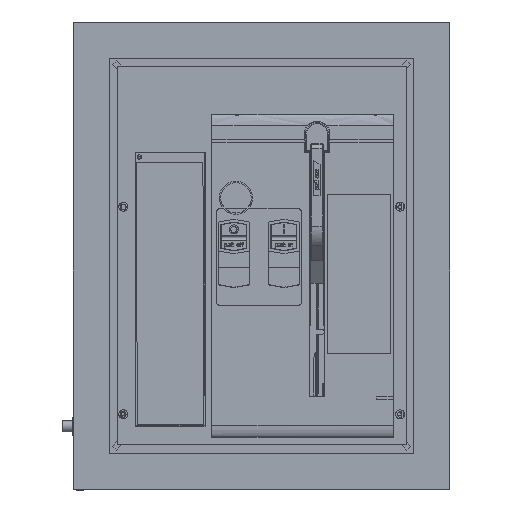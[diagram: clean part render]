
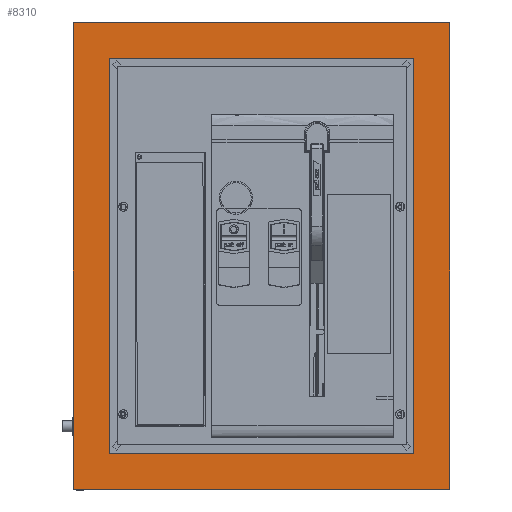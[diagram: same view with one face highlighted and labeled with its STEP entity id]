
A CAD part, top view. The second image highlights one B-rep face of the part: STEP entity #8310.
In plain terms, the highlighted planar face has unit normal (0, 0, 1).
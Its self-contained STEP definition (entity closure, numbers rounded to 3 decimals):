
#869 = ORIENTED_EDGE ( 'NONE', *, *, #62154, .F. ) ;
#1054 = LINE ( 'NONE', #36782, #49618 ) ;
#2755 = VERTEX_POINT ( 'NONE', #79060 ) ;
#3376 = LINE ( 'NONE', #112231, #20637 ) ;
#3984 = AXIS2_PLACEMENT_3D ( 'NONE', #32346, #5556, #113252 ) ;
#4644 = LINE ( 'NONE', #11805, #84988 ) ;
#5556 = DIRECTION ( 'NONE',  ( 0., 0., 1. ) ) ;
#6054 = LINE ( 'NONE', #96494, #44463 ) ;
#6079 = CARTESIAN_POINT ( 'NONE',  ( -1512.854, 93.52, 154.457 ) ) ;
#7276 = CIRCLE ( 'NONE', #33867, 2. ) ;
#8310 = ADVANCED_FACE ( 'NONE', ( #63842, #109059 ), #16883, .T. ) ;
#9554 = VECTOR ( 'NONE', #77139, 1000. ) ;
#11158 = AXIS2_PLACEMENT_3D ( 'NONE', #90972, #63586, #99879 ) ;
#11797 = LINE ( 'NONE', #112320, #20786 ) ;
#11805 = CARTESIAN_POINT ( 'NONE',  ( -1488.854, 67.02, 154.457 ) ) ;
#13304 = AXIS2_PLACEMENT_3D ( 'NONE', #57791, #94092, #15335 ) ;
#15241 = CIRCLE ( 'NONE', #13304, 2. ) ;
#15335 = DIRECTION ( 'NONE',  ( 1., 0., 0. ) ) ;
#16562 = ORIENTED_EDGE ( 'NONE', *, *, #77008, .T. ) ;
#16814 = CIRCLE ( 'NONE', #11158, 2. ) ;
#16883 = PLANE ( 'NONE',  #115647 ) ;
#20637 = VECTOR ( 'NONE', #30746, 1000. ) ;
#20773 = EDGE_CURVE ( 'NONE', #76090, #108438, #3376, .T. ) ;
#20786 = VECTOR ( 'NONE', #112904, 1000. ) ;
#21316 = DIRECTION ( 'NONE',  ( 0., -1., 0. ) ) ;
#21849 = LINE ( 'NONE', #50365, #9554 ) ;
#22427 = ORIENTED_EDGE ( 'NONE', *, *, #104769, .F. ) ;
#22502 = CARTESIAN_POINT ( 'NONE',  ( -1268.854, 67.02, 154.457 ) ) ;
#22940 = CARTESIAN_POINT ( 'NONE',  ( -1242.854, 91.52, 154.457 ) ) ;
#26972 = EDGE_LOOP ( 'NONE', ( #66635, #22427, #44577, #40897 ) ) ;
#27212 = VERTEX_POINT ( 'NONE', #110724 ) ;
#29733 = VERTEX_POINT ( 'NONE', #81162 ) ;
#30531 = CARTESIAN_POINT ( 'NONE',  ( -1242.854, -242.48, 154.457 ) ) ;
#30746 = DIRECTION ( 'NONE',  ( -1., 0., 0. ) ) ;
#32160 = ORIENTED_EDGE ( 'NONE', *, *, #110866, .F. ) ;
#32346 = CARTESIAN_POINT ( 'NONE',  ( -1244.854, -242.48, 154.457 ) ) ;
#33421 = DIRECTION ( 'NONE',  ( 0., 1., 0. ) ) ;
#33867 = AXIS2_PLACEMENT_3D ( 'NONE', #34049, #68562, #69723 ) ;
#34049 = CARTESIAN_POINT ( 'NONE',  ( -1512.854, 91.52, 154.457 ) ) ;
#35202 = VERTEX_POINT ( 'NONE', #30531 ) ;
#36419 = EDGE_CURVE ( 'NONE', #38106, #92925, #7276, .T. ) ;
#36782 = CARTESIAN_POINT ( 'NONE',  ( -1244.854, -244.48, 154.457 ) ) ;
#37467 = EDGE_CURVE ( 'NONE', #27212, #71560, #11797, .T. ) ;
#38106 = VERTEX_POINT ( 'NONE', #6079 ) ;
#40897 = ORIENTED_EDGE ( 'NONE', *, *, #83391, .F. ) ;
#41101 = EDGE_CURVE ( 'NONE', #46340, #35202, #71922, .T. ) ;
#44449 = ORIENTED_EDGE ( 'NONE', *, *, #97840, .T. ) ;
#44463 = VECTOR ( 'NONE', #33421, 1000. ) ;
#44577 = ORIENTED_EDGE ( 'NONE', *, *, #37467, .F. ) ;
#45122 = VECTOR ( 'NONE', #53594, 1000. ) ;
#46340 = VERTEX_POINT ( 'NONE', #22940 ) ;
#49618 = VECTOR ( 'NONE', #102769, 1000. ) ;
#50365 = CARTESIAN_POINT ( 'NONE',  ( -1268.854, -217.98, 154.457 ) ) ;
#53594 = DIRECTION ( 'NONE',  ( 1., 0., 0. ) ) ;
#57791 = CARTESIAN_POINT ( 'NONE',  ( -1244.854, 91.52, 154.457 ) ) ;
#58538 = VECTOR ( 'NONE', #81431, 1000. ) ;
#62039 = ORIENTED_EDGE ( 'NONE', *, *, #97080, .T. ) ;
#62154 = EDGE_CURVE ( 'NONE', #107849, #2755, #1054, .T. ) ;
#63259 = DIRECTION ( 'NONE',  ( -1., 0., 0. ) ) ;
#63586 = DIRECTION ( 'NONE',  ( 0., 0., 1. ) ) ;
#63842 = FACE_BOUND ( 'NONE', #26972, .T. ) ;
#64743 = CIRCLE ( 'NONE', #3984, 2. ) ;
#66635 = ORIENTED_EDGE ( 'NONE', *, *, #20773, .F. ) ;
#68562 = DIRECTION ( 'NONE',  ( 0., 0., 1. ) ) ;
#68900 = ORIENTED_EDGE ( 'NONE', *, *, #73821, .F. ) ;
#69723 = DIRECTION ( 'NONE',  ( 0., 1., 0. ) ) ;
#71443 = LINE ( 'NONE', #98827, #45122 ) ;
#71560 = VERTEX_POINT ( 'NONE', #88272 ) ;
#71922 = LINE ( 'NONE', #80262, #58538 ) ;
#72620 = CARTESIAN_POINT ( 'NONE',  ( -1514.854, 91.52, 154.457 ) ) ;
#73821 = EDGE_CURVE ( 'NONE', #38106, #29733, #71443, .T. ) ;
#74429 = ORIENTED_EDGE ( 'NONE', *, *, #36419, .T. ) ;
#76090 = VERTEX_POINT ( 'NONE', #22502 ) ;
#77008 = EDGE_CURVE ( 'NONE', #92597, #2755, #16814, .T. ) ;
#77139 = DIRECTION ( 'NONE',  ( 0., 1., 0. ) ) ;
#79060 = CARTESIAN_POINT ( 'NONE',  ( -1512.854, -244.48, 154.457 ) ) ;
#80262 = CARTESIAN_POINT ( 'NONE',  ( -1242.854, 91.52, 154.457 ) ) ;
#80544 = DIRECTION ( 'NONE',  ( 0., 0., 1. ) ) ;
#81162 = CARTESIAN_POINT ( 'NONE',  ( -1244.854, 93.52, 154.457 ) ) ;
#81431 = DIRECTION ( 'NONE',  ( 0., -1., 0. ) ) ;
#83391 = EDGE_CURVE ( 'NONE', #108438, #27212, #4644, .T. ) ;
#84988 = VECTOR ( 'NONE', #21316, 1000. ) ;
#88272 = CARTESIAN_POINT ( 'NONE',  ( -1268.854, -217.98, 154.457 ) ) ;
#90787 = CARTESIAN_POINT ( 'NONE',  ( -1514.854, -242.48, 154.457 ) ) ;
#90972 = CARTESIAN_POINT ( 'NONE',  ( -1512.854, -242.48, 154.457 ) ) ;
#91232 = CARTESIAN_POINT ( 'NONE',  ( -1378.854, -75.48, 154.457 ) ) ;
#92597 = VERTEX_POINT ( 'NONE', #90787 ) ;
#92894 = CARTESIAN_POINT ( 'NONE',  ( -1244.854, -244.48, 154.457 ) ) ;
#92925 = VERTEX_POINT ( 'NONE', #72620 ) ;
#94092 = DIRECTION ( 'NONE',  ( 0., 0., 1. ) ) ;
#94330 = EDGE_LOOP ( 'NONE', ( #32160, #16562, #869, #44449, #106236, #62039, #68900, #74429 ) ) ;
#96494 = CARTESIAN_POINT ( 'NONE',  ( -1514.854, -242.48, 154.457 ) ) ;
#97080 = EDGE_CURVE ( 'NONE', #46340, #29733, #15241, .T. ) ;
#97840 = EDGE_CURVE ( 'NONE', #107849, #35202, #64743, .T. ) ;
#98827 = CARTESIAN_POINT ( 'NONE',  ( -1512.854, 93.52, 154.457 ) ) ;
#99879 = DIRECTION ( 'NONE',  ( -1., 0., 0. ) ) ;
#102524 = CARTESIAN_POINT ( 'NONE',  ( -1488.854, 67.02, 154.457 ) ) ;
#102769 = DIRECTION ( 'NONE',  ( -1., 0., 0. ) ) ;
#104769 = EDGE_CURVE ( 'NONE', #71560, #76090, #21849, .T. ) ;
#106236 = ORIENTED_EDGE ( 'NONE', *, *, #41101, .F. ) ;
#107849 = VERTEX_POINT ( 'NONE', #92894 ) ;
#108438 = VERTEX_POINT ( 'NONE', #102524 ) ;
#109059 = FACE_OUTER_BOUND ( 'NONE', #94330, .T. ) ;
#110724 = CARTESIAN_POINT ( 'NONE',  ( -1488.854, -217.98, 154.457 ) ) ;
#110866 = EDGE_CURVE ( 'NONE', #92597, #92925, #6054, .T. ) ;
#112231 = CARTESIAN_POINT ( 'NONE',  ( -1268.854, 67.02, 154.457 ) ) ;
#112320 = CARTESIAN_POINT ( 'NONE',  ( -1488.854, -217.98, 154.457 ) ) ;
#112904 = DIRECTION ( 'NONE',  ( 1., 0., 0. ) ) ;
#113252 = DIRECTION ( 'NONE',  ( 0., -1., 0. ) ) ;
#115647 = AXIS2_PLACEMENT_3D ( 'NONE', #91232, #80544, #63259 ) ;
